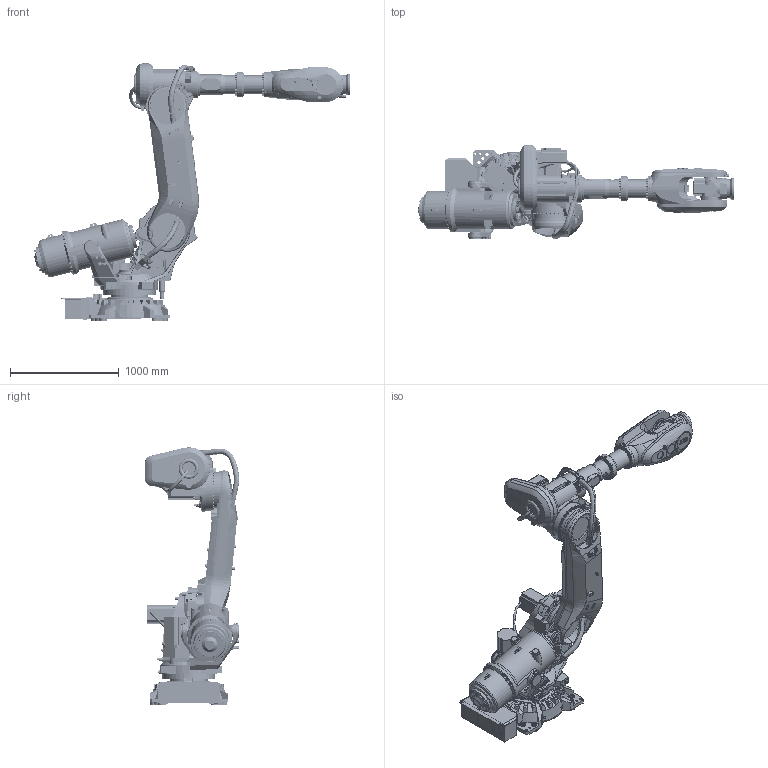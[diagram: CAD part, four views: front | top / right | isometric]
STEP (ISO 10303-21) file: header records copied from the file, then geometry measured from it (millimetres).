
FILE_DESCRIPTION(/* description */ (''),/* implementation_level */ '2;1');
FILE_NAME(/* name */ 'E:\组装完成的图纸\IRB 6700\IRB 6700Inv-245-2.9\IRB 6700Inv-245-2.9 .stp',/* time_stamp */ '2023-11-04T19:53:23+08:00',/* author */ ('Administrator'),/* organization */ (''),/* preprocessor_version */ 'ST-DEVELOPER v16.5',/* originating_system */ 'Autodesk Inventor 2017',/* authorisation */ '');
FILE_SCHEMA (('AUTOMOTIVE_DESIGN { 1 0 10303 214 3 1 1 }'));
Products named in the file (16): 部件5; IRB6700Inv_245-290_IRC5_rev00_BASE_CAD; IRB6700Inv_245-290_IRC5_rev00_CYLINDER_CAD; IRB6700Inv_245-290_IRC5_rev00_LINK01_CAD; IRB6700Inv_245-290_IRC5_rev00_LINK01m_CABLE; IRB6700Inv_245-290_IRC5_rev00_LINK02_CAD; IRB6700Inv_245-290_IRC5_rev00_LINK02m_CABLE; IRB6700Inv_245-290_IRC5_rev00_LINK03_CAD; IRB6700Inv_245-290_IRC5_rev00_LINK03m_CABLE; IRB6700Inv_245-290_IRC5_rev00_LINK04_CAD; IRB6700Inv_245-290_IRC5_rev00_LINK05_CAD; IRB6700Inv_245-290_IRC5_rev00_LINK06_CAD; IRB6700Inv_245-290_IRC5_rev00_LOGO1_CAD; IRB6700Inv_245-290_IRC5_rev00_LOGO2_CAD; IRB6700Inv_245-290_IRC5_rev00_LOGO3_CAD; IRB6700Inv_245-290_IRC5_rev00_ROD_CAD
Assembly tree (15 placements, depth 2):
  部件5
    IRB6700Inv_245-290_IRC5_rev00_BASE_CAD
    IRB6700Inv_245-290_IRC5_rev00_CYLINDER_CAD
    IRB6700Inv_245-290_IRC5_rev00_LINK01_CAD
    IRB6700Inv_245-290_IRC5_rev00_LINK01m_CABLE
    IRB6700Inv_245-290_IRC5_rev00_LINK02_CAD
    IRB6700Inv_245-290_IRC5_rev00_LINK02m_CABLE
    IRB6700Inv_245-290_IRC5_rev00_LINK03_CAD
    IRB6700Inv_245-290_IRC5_rev00_LINK03m_CABLE
    IRB6700Inv_245-290_IRC5_rev00_LINK04_CAD
    IRB6700Inv_245-290_IRC5_rev00_LINK05_CAD
    IRB6700Inv_245-290_IRC5_rev00_LINK06_CAD
    IRB6700Inv_245-290_IRC5_rev00_LOGO1_CAD
    IRB6700Inv_245-290_IRC5_rev00_LOGO2_CAD
    IRB6700Inv_245-290_IRC5_rev00_LOGO3_CAD
    IRB6700Inv_245-290_IRC5_rev00_ROD_CAD
Bounding box: 2912.18 x 869.57 x 2370.8 mm (x, y, z)
Volume: 549812331.2 mm3; surface area: 14624399.1 mm2
Topology: 16 solids, 18 shells, 4620 faces, 11738 edges, 7703 vertices
Faces by surface type: plane 3027, cylinder 815, cone 395, bspline 364, torus 17, sphere 2
Full cylindrical faces by diameter (mm): 5 x13, 5.45 x1, 6.5 x6, 6.6 x4, 6.8 x22, 7 x2, 8.3 x4, 8.5 x8, 9 x3, 10.2 x40, 11.05 x2, 11.3 x2, 11.363 x1, 11.366 x1, 12 x10, 13 x4, 13.27 x8, 14 x26, 14.9 x1, 16 x14, 16.27 x24, 17 x13, 17.5 x8, 18 x2, 18.27 x40, 18.5 x32, 19 x33, 19.75 x2, 20 x3, 20.614 x2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
Entity records: 251297 total; most frequent: CARTESIAN_POINT 143457, ORIENTED_EDGE 21974, DIRECTION 20906, EDGE_CURVE 10987, VERTEX_POINT 7586, AXIS2_PLACEMENT_3D 7110, LINE 6686, VECTOR 6686
